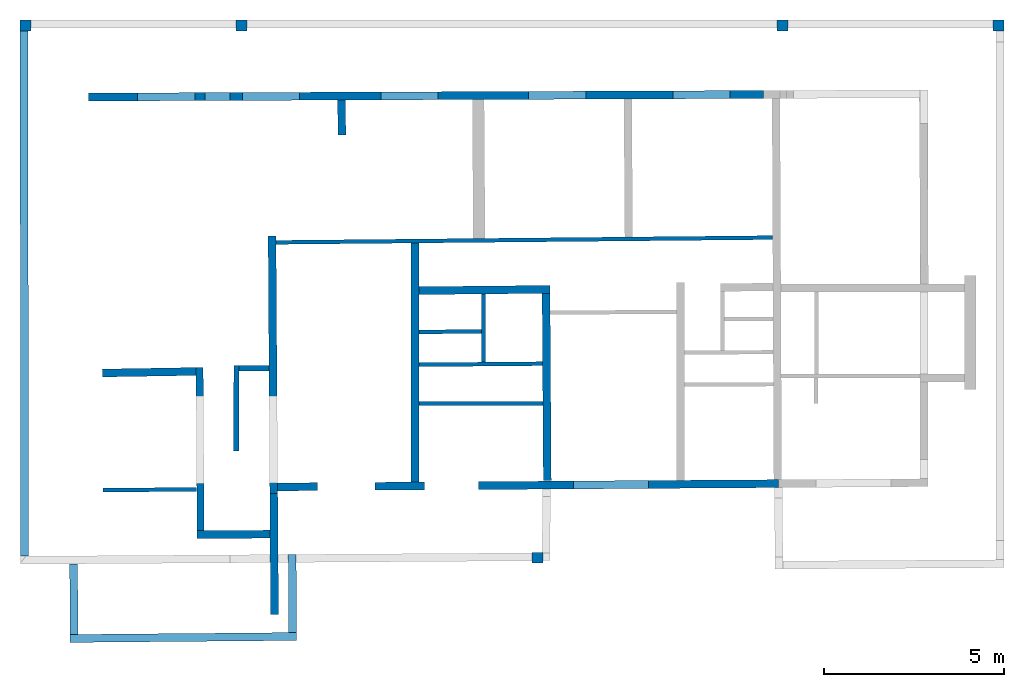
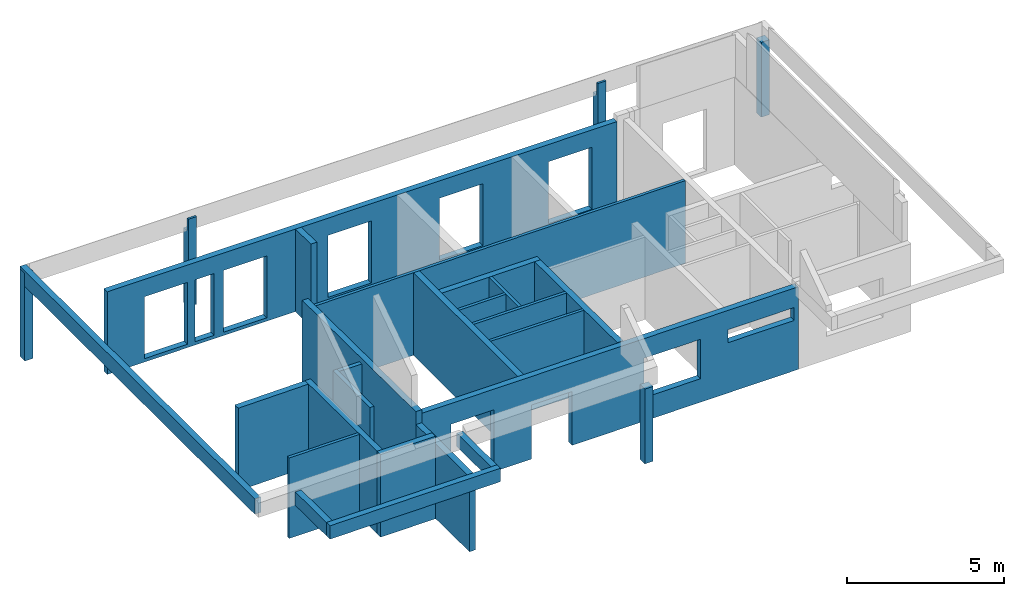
# One storey, part 1 of 3: 23 walls, 5 columns, 10 openings.
"""IFC2X3 building model written with IfcOpenShell, lengths in centimetres."""

from ifc_helpers import new_model, entity, si_unit, converted_unit, direction, frame, frame_2d, origin, origin_2d_with_axis, place, context, subcontext, project, spatial, polyline, rectangle, outline, extrude, faceted_brep, source, transform, mapped, material, layer, layer_set, layer_usage, type_object, type_shapes, element, save


model = new_model("IFC2X3")

# Units and contexts
model_context = context("Model", 3, precision=0.001, world=frame((0.0, 0.0, 13090.0)), true_north=direction((6.123233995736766e-17, 1.0)))
body_context = subcontext(model_context, "Body", "Model", "MODEL_VIEW")
ifc_project = project(units=[si_unit("LENGTHUNIT", "METRE", prefix="CENTI"), si_unit("AREAUNIT", "SQUARE_METRE"), si_unit("VOLUMEUNIT", "CUBIC_METRE"), converted_unit("PLANEANGLEUNIT", "DEGREE", entity("IfcPlaneAngleMeasure", 0.017453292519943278), si_unit("PLANEANGLEUNIT", "RADIAN"), dimensions=[0, 0, 0, 0, 0, 0, 0])], contexts=[model_context])

# Site, building, storey
site_placement = place(None, origin())
site = spatial("IfcSite", under=ifc_project, at=site_placement, Name="Default", CompositionType="ELEMENT")
building_placement = place(site_placement, origin())
building = spatial("IfcBuilding", under=site, at=building_placement, Name="e 39 logements et 22 maisons relais", CompositionType="ELEMENT")
storey_placement = place(building_placement, origin())
storey = spatial("IfcBuildingStorey", under=building, at=storey_placement, Name="RDC", CompositionType="ELEMENT", Elevation=0.0)

# Columns
ifc_material_1 = material(Name="Maçonnerie - Béton coulé sur place")
column_type_1 = type_object("IfcColumnType", Name="Poteau béton - Rectangulaire:30x30", PredefinedType="COLUMN", material=ifc_material_1)
shared_shape_1 = source(origin(), body_context, "Body", "Brep", [
    faceted_brep([(-1475.714366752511, 732.5252742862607, 0.0), (-1475.7143667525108, 702.5252742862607, 0.0), (-1505.714366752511, 702.5252742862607, 0.0), (-1505.714366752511, 732.5252742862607, 0.0), (-1475.7143667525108, 732.5252742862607, 290.0), (-1475.7143667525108, 710.5252742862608, 290.0), (-1475.7143667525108, 710.5252742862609, 340.0), (-1475.7143667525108, 702.5252742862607, 340.0), (-1483.6596933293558, 702.5252742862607, 340.0), (-1483.6596933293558, 702.5252742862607, 290.0), (-1505.6597089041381, 702.5252742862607, 290.0), (-1505.659708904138, 702.5252742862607, 340.0), (-1505.714366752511, 702.5252742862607, 340.0), (-1505.714366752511, 732.5252742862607, 340.0), (-1505.6954062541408, 732.5252742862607, 340.0), (-1505.6954062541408, 732.5252742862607, 290.0), (-1483.6953906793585, 732.5252742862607, 290.0), (-1483.6692126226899, 710.5252742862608, 340.0), (-1483.6692126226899, 710.5252742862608, 290.0)], [[[0, 1, 2, 3]], [[1, 0, 4, 5, 6, 7]], [[2, 1, 7, 8, 9, 10, 11, 12]], [[3, 2, 12, 13]], [[0, 3, 13, 14, 15, 16, 4]], [[8, 7, 6, 17]], [[10, 15, 14, 11]], [[15, 10, 9, 18, 5, 4, 16]], [[9, 8, 17, 18]], [[5, 18, 17, 6]], [[13, 12, 11, 14]]]),
])
type_shapes(column_type_1, [shared_shape_1])
column_1_placement = place(storey_placement, origin())
element("IfcColumn", 1, at=column_1_placement, inside=storey, type_object=column_type_1, material=ifc_material_1, Name="Poteau béton - Rectangulaire:30x30", ObjectType="Poteau béton - Rectangulaire:30x30", context=body_context, shape_type="MappedRepresentation", body=[
    mapped(shared_shape_1, transform((0.0, 0.0, 0.0), scale=1.0)),
])
column_type_2 = type_object("IfcColumnType", Name="Poteau béton - Rectangulaire:30x30", PredefinedType="COLUMN", material=ifc_material_1)
shared_shape_2 = source(origin(), body_context, "Body", "SweptSolid", [
    extrude(outline(polyline([(-210.0, -17.333333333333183), (80.0, -17.333333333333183), (80.0, 4.666666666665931), (130.0, 4.666666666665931), (130.0, 12.666666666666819), (-210.0, 12.666666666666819), (-210.0, -17.333333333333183)])), frame((-905.6749326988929, 715.1919409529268, 210.0), z_axis=(1.0, 0.0, 0.0), x_axis=(0.0, 0.0, 1.0)), (0.0, 0.0, 1.0), 30.0),
])
type_shapes(column_type_2, [shared_shape_2])
column_2_placement = place(storey_placement, origin())
element("IfcColumn", 2, at=column_2_placement, inside=storey, type_object=column_type_2, material=ifc_material_1, Name="Poteau béton - Rectangulaire:30x30", ObjectType="Poteau béton - Rectangulaire:30x30", context=body_context, shape_type="MappedRepresentation", body=[
    mapped(shared_shape_2, transform((0.0, 0.0, 0.0), scale=1.0)),
])
column_type_3 = type_object("IfcColumnType", Name="Poteau béton - Rectangulaire:30x30", PredefinedType="COLUMN", material=ifc_material_1)
shared_shape_3 = source(origin(), body_context, "Body", "SweptSolid", [
    extrude(outline(polyline([(-210.0, -17.333333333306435), (80.0, -17.333333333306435), (80.0, 4.666666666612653), (130.0, 4.666666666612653), (130.0, 12.666666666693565), (-210.0, 12.666666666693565), (-210.0, -17.333333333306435)])), frame((595.5111343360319, 715.1919409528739, 210.0), z_axis=(1.0, 0.0, 0.0), x_axis=(0.0, 0.0, 1.0)), (0.0, 0.0, 1.0), 30.0),
])
type_shapes(column_type_3, [shared_shape_3])
column_3_placement = place(storey_placement, origin())
element("IfcColumn", 3, at=column_3_placement, inside=storey, type_object=column_type_3, material=ifc_material_1, Name="Poteau béton - Rectangulaire:30x30", ObjectType="Poteau béton - Rectangulaire:30x30", context=body_context, shape_type="MappedRepresentation", body=[
    mapped(shared_shape_3, transform((0.0, 0.0, 0.0), scale=1.0)),
])
column_type_4 = type_object("IfcColumnType", Name="Poteau béton - Rectangulaire:30x30", PredefinedType="COLUMN", material=ifc_material_1)
shared_shape_4 = source(origin(), body_context, "Body", "SweptSolid", [
    extrude(rectangle(XDim=29.999999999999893, YDim=30.0, at=frame_2d((-1.0835776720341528e-13, 0.0), x_axis=(1.0, 0.0))), frame((1209.8343840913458, 717.5252742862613, 0.0), z_axis=(0.0, 0.0, 1.0), x_axis=(-1.0, 0.0, 0.0)), (0.0, 0.0, 1.0), 289.99999999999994),
])
type_shapes(column_type_4, [shared_shape_4])
column_4_placement = place(storey_placement, origin())
element("IfcColumn", 4, at=column_4_placement, inside=storey, type_object=column_type_4, material=ifc_material_1, Name="Poteau béton - Rectangulaire:30x30", ObjectType="Poteau béton - Rectangulaire:30x30", context=body_context, shape_type="MappedRepresentation", body=[
    mapped(shared_shape_4, transform((0.0, 0.0, 0.0), scale=1.0)),
])
column_type_5 = type_object("IfcColumnType", Name="Poteau béton - Rectangulaire:30x30", PredefinedType="COLUMN", material=ifc_material_1)
shared_shape_5 = source(origin(), body_context, "Body", "SweptSolid", [
    extrude(rectangle(XDim=29.999999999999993, YDim=29.999999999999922, at=frame_2d((-7.105427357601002e-15, 5.417888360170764e-14), x_axis=(1.0, 0.0))), frame((-69.88787504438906, -759.6761169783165, 0.0), z_axis=(0.0, 0.0, 1.0), x_axis=(-0.9999784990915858, -0.00655754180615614, 0.0)), (0.0, 0.0, 1.0), 289.9999999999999),
])
type_shapes(column_type_5, [shared_shape_5])
column_5_placement = place(storey_placement, origin())
element("IfcColumn", 5, at=column_5_placement, inside=storey, type_object=column_type_5, material=ifc_material_1, Name="Poteau béton - Rectangulaire:30x30", ObjectType="Poteau béton - Rectangulaire:30x30", context=body_context, shape_type="MappedRepresentation", body=[
    mapped(shared_shape_5, transform((0.0, 0.0, 0.0), scale=1.0)),
])

# Walls
ifc_material_2 = material(Name="Béton - Béton coulé sur place")
ifc_layer_1 = layer(ifc_material_2, 20.0)
ifc_layer_set_1 = layer_set([ifc_layer_1], Name="Mur de base:BA - 20cm")
ifc_layer_usage_1 = layer_usage(ifc_layer_set_1, "AXIS2", "POSITIVE", -10.0)
wall_type_1 = type_object("IfcWallType", Name="Mur de base:BA - 20cm", PredefinedType="STANDARD", material=ifc_layer_set_1)
wall_1_placement = place(storey_placement, frame((-1004.4320356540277, -684.527437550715, 0.0), z_axis=(0.0, 0.0, 1.0), x_axis=(-0.006557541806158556, 0.9999784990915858, 0.0)))
element("IfcWallStandardCase", 6, at=wall_1_placement, inside=storey, type_object=wall_type_1, material=ifc_layer_usage_1, Name="Mur de base:BA - 20cm", ObjectType="Mur de base:BA - 20cm", context=body_context, shape_type="SweptSolid", body=[
    extrude(outline(polyline([(453.05795774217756, -10.0), (452.85270484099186, 10.0), (430.8515463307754, 10.0), (0.0, 10.0), (0.0, -10.0), (453.05795774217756, -10.0)])), origin(), (0.0, 0.0, 1.0), 319.99999999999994),
])
ifc_layer_2 = layer(ifc_material_2, 22.0)
ifc_layer_set_2 = layer_set([ifc_layer_2], Name="Mur de base:BA - 22cm")
ifc_layer_usage_2 = layer_usage(ifc_layer_set_2, "AXIS2", "POSITIVE", -11.0)
wall_type_2 = type_object("IfcWallType", Name="Mur de base:BA - 22cm", PredefinedType="STANDARD", material=ifc_layer_set_2)
wall_2_placement = place(storey_placement, frame((-799.3341503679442, -917.7798525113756, 0.0), z_axis=(0.0, 0.0, 1.0), x_axis=(-0.006557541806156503, 0.9999784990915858, 0.0)))
element("IfcWallStandardCase", 7, at=wall_2_placement, inside=storey, type_object=wall_type_2, material=ifc_layer_usage_2, Name="Mur de base:BA - 22cm", ObjectType="Mur de base:BA - 22cm", context=body_context, shape_type="SweptSolid", body=[
    extrude(outline(polyline([(336.5, -11.0), (336.5000000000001, 11.0), (234.59233777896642, 11.0), (212.5923377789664, 11.0), (0.0, 11.0), (0.04947758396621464, -11.0), (336.5, -11.0)])), origin(), (0.0, 0.0, 1.0), 289.99999999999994),
])
ifc_layer_usage_3 = layer_usage(ifc_layer_set_2, "AXIS2", "POSITIVE", -11.0)
wall_3_placement = place(storey_placement, frame((-811.8001299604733, -694.2644551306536, 0.0), z_axis=(0.0, 0.0, 1.0), x_axis=(-0.9999784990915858, -0.006557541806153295, 0.0)))
element("IfcWallStandardCase", 8, at=wall_3_placement, inside=storey, type_object=wall_type_2, material=ifc_layer_usage_3, Name="Mur de base:BA - 22cm", ObjectType="Mur de base:BA - 22cm", context=body_context, shape_type="SweptSolid", body=[
    extrude(rectangle(XDim=202.56391303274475, YDim=22.00000000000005, at=frame_2d((101.28195651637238, 2.930988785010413e-14), x_axis=(-1.0, 0.0))), origin(), (0.0, 0.0, 1.0), 319.99999999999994),
])
ifc_layer_usage_4 = layer_usage(ifc_layer_set_2, "AXIS2", "POSITIVE", -11.0)
wall_4_placement = place(storey_placement, frame((-1017.216411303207, -242.74848891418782, 0.0), z_axis=(0.0, 0.0, 1.0), x_axis=(-0.9998585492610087, -0.016819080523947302, 0.0)))
element("IfcWallStandardCase", 9, at=wall_4_placement, inside=storey, type_object=wall_type_2, material=ifc_layer_usage_4, Name="Mur de base:BA - 22cm", ObjectType="Mur de base:BA - 22cm", context=body_context, shape_type="SweptSolid", body=[
    extrude(outline(polyline([(260.11380645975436, -11.0), (260.3395846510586, 11.0), (0.22577819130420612, 11.0), (0.0, -11.0), (260.11380645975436, -11.0)])), origin(), (0.0, 0.0, 1.0), 319.99999999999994),
])
ifc_layer_usage_5 = layer_usage(ifc_layer_set_2, "AXIS2", "POSITIVE", -11.0)
wall_5_placement = place(storey_placement, frame((-613.2346722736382, 510.3963352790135, 0.0), z_axis=(0.0, 0.0, 1.0), x_axis=(0.006557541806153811, -0.9999784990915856, 0.0)))
element("IfcWallStandardCase", 10, at=wall_5_placement, inside=storey, type_object=wall_type_2, material=ifc_layer_usage_5, Name="Mur de base:BA - 22cm", ObjectType="Mur de base:BA - 22cm", context=body_context, shape_type="SweptSolid", body=[
    extrude(outline(polyline([(97.00963727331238, -11.0), (97.00963727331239, 11.0), (0.060559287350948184, 11.0), (0.0, -11.0), (97.00963727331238, -11.0)])), origin(), (0.0, 0.0, 1.0), 319.99999999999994),
])

# Wall, openings
ifc_layer_usage_6 = layer_usage(ifc_layer_set_2, "AXIS2", "POSITIVE", -11.0)
wall_6_placement = place(storey_placement, frame((-790.6593943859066, -563.1606061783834, 0.0), z_axis=(0.0, 0.0, 1.0), x_axis=(0.9999784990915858, 0.006557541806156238, 0.0)))
wall_6 = element("IfcWallStandardCase", 11, at=wall_6_placement, inside=storey, type_object=wall_type_2, material=ifc_layer_usage_6, Name="Mur de base:BA - 22cm", ObjectType="Mur de base:BA - 22cm", context=body_context, shape_type="SweptSolid", body=[
    extrude(rectangle(XDim=1389.5071248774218, YDim=22.000000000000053, at=frame_2d((694.7535624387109, 1.9539925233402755e-14), x_axis=(1.0, 0.0))), origin(), (0.0, 0.0, 1.0), 319.99999999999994),
])
opening_1_placement = place(wall_6_placement, frame((794.335343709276, 557.9637156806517, 0.0), z_axis=(0.0, 0.0, 1.0), x_axis=(0.9999784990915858, -0.006557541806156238, 0.0)))
element("IfcOpeningElement", 12, at=opening_1_placement, cuts=wall_6, Name="Mur de base:BA - 22cm", ObjectType="Opening", context=body_context, shape_type="SweptSolid", body=[
    extrude(rectangle(XDim=239.99999999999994, YDim=159.0, at=origin_2d_with_axis()), frame((-599.7362431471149, -703.3116330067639, 120.0), z_axis=(-0.006557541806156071, 0.9999784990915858, 0.0), x_axis=(0.0, 0.0, -1.0)), (0.0, 0.0, 1.0), 304.80000000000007),
])
opening_2_placement = place(wall_6_placement, frame((794.335343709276, 557.9637156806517, 0.0), z_axis=(0.0, 0.0, 1.0), x_axis=(0.9999784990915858, -0.006557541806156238, 0.0)))
element("IfcOpeningElement", 13, at=opening_2_placement, cuts=wall_6, Name="Mur de base:BA - 22cm", ObjectType="Opening", context=body_context, shape_type="SweptSolid", body=[
    extrude(rectangle(XDim=209.00000000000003, YDim=149.99999999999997, at=frame_2d((0.0, 1.4210854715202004e-14), x_axis=(1.0, 0.0))), frame((-307.54252571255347, -701.395519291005, 104.50000000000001), z_axis=(-0.0065575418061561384, 0.9999784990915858, 0.0), x_axis=(0.0, 0.0, -1.0)), (0.0, 0.0, 1.0), 304.80000000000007),
])
opening_3_placement = place(wall_6_placement, frame((794.335343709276, 557.9637156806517, 0.0), z_axis=(0.0, 0.0, 1.0), x_axis=(0.9999784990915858, -0.006557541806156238, 0.0)))
element("IfcOpeningElement", 14, at=opening_3_placement, cuts=wall_6, Name="Mur de base:BA - 22cm", ObjectType="Opening", context=body_context, shape_type="SweptSolid", body=[
    extrude(rectangle(XDim=153.00000000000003, YDim=207.99999999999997, at=frame_2d((0.0, 1.4210854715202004e-14), x_axis=(1.0, 0.0))), frame((135.54794723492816, -698.4898725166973, 167.5), z_axis=(-0.006557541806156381, 0.9999784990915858, 0.0), x_axis=(0.0, 0.0, -1.0)), (0.0, 0.0, 1.0), 304.8),
])
opening_4_placement = place(wall_6_placement, frame((794.335343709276, 557.9637156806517, 0.0), z_axis=(0.0, 0.0, 1.0), x_axis=(0.9999784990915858, -0.006557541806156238, 0.0)))
element("IfcOpeningElement", 15, at=opening_4_placement, cuts=wall_6, Name="Mur de base:BA - 22cm", ObjectType="Opening", context=body_context, shape_type="SweptSolid", body=[
    extrude(rectangle(XDim=50.0, YDim=243.0, at=origin_2d_with_axis()), frame((463.2480261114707, -696.3409193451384, 220.0), z_axis=(-0.006557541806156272, 0.9999784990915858, 0.0), x_axis=(0.0, 0.0, -1.0)), (0.0, 0.0, 1.0), 304.79999999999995),
])

# Walls
ifc_layer_usage_7 = layer_usage(ifc_layer_set_2, "AXIS2", "NEGATIVE", 11.0)
wall_7_placement = place(storey_placement, frame((-409.47312273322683, -549.7328055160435, 0.0), z_axis=(0.0, 0.0, 1.0), x_axis=(0.0, 1.0, 0.0)))
element("IfcWallStandardCase", 16, at=wall_7_placement, inside=storey, type_object=wall_type_2, material=ifc_layer_usage_7, Name="Mur de base:BA - 22cm", ObjectType="Mur de base:BA - 22cm", context=body_context, shape_type="SweptSolid", body=[
    extrude(outline(polyline([(663.4829443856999, -11.0), (663.2698835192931, 11.0), (0.0, 11.0), (0.14426902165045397, -11.0), (212.09997306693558, -11.0), (223.09997400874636, -11.0), (320.15418495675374, -11.0), (331.1545832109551, -11.0), (410.80592302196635, -11.0), (421.80677643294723, -11.0), (520.2744017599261, -11.0), (542.2753925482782, -11.0), (663.4829443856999, -11.0)])), origin(), (0.0, 0.0, 1.0), 319.99999999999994),
])
ifc_layer_usage_8 = layer_usage(ifc_layer_set_2, "AXIS2", "POSITIVE", -11.0)
wall_8_placement = place(storey_placement, frame((-398.5775159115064, -18.45889912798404, 0.0), z_axis=(0.0, 0.0, 1.0), x_axis=(0.9999549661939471, 0.009490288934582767, 0.0)))
element("IfcWallStandardCase", 17, at=wall_8_placement, inside=storey, type_object=wall_type_2, material=ifc_layer_usage_8, Name="Mur de base:BA - 22cm", ObjectType="Mur de base:BA - 22cm", context=body_context, shape_type="SweptSolid", body=[
    extrude(outline(polyline([(363.60406285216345, -11.0), (363.6685855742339, 11.0), (0.20879575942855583, 11.0), (0.0, -11.0), (173.19985839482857, -11.0), (184.20035378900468, -11.0), (341.60396823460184, -11.0), (363.60406285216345, -11.0)])), origin(), (0.0, 0.0, 1.0), 320.0),
])
ifc_layer_usage_9 = layer_usage(ifc_layer_set_2, "AXIS2", "POSITIVE", -11.0)
wall_9_placement = place(storey_placement, frame((-45.885197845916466, -26.079829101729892, 0.0), z_axis=(0.0, 0.0, 1.0), x_axis=(0.006557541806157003, -0.9999784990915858, 0.0)))
element("IfcWallStandardCase", 18, at=wall_9_placement, inside=storey, type_object=wall_type_2, material=ifc_layer_usage_9, Name="Mur de base:BA - 22cm", ObjectType="Mur de base:BA - 22cm", context=body_context, shape_type="SweptSolid", body=[
    extrude(outline(polyline([(519.1853414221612, -11.0), (519.1853414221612, 11.0), (59.079608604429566, 11.0), (48.0796086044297, 11.0), (0.0, 11.0), (0.064522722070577, -11.0), (189.5130239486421, -11.0), (200.51304489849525, -11.0), (300.3451596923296, -11.0), (311.34536729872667, -11.0), (519.1853414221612, -11.0)])), origin(), (0.0, 0.0, 1.0), 319.99999999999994),
])
ifc_layer_usage_10 = layer_usage(ifc_layer_set_2, "AXIS2", "POSITIVE", -11.0)
wall_10_placement = place(storey_placement, frame((-1494.6954140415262, 732.538363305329, 290.0), z_axis=(0.0, 0.0, 1.0), x_axis=(0.0011899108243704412, -0.9999992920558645, 0.0)))
element("IfcWallStandardCase", 19, at=wall_10_placement, inside=storey, type_object=wall_type_2, material=ifc_layer_usage_10, Name="Mur de base:BA - 22cm", ObjectType="Mur de base:BA - 22cm", context=body_context, shape_type="SweptSolid", body=[
    extrude(outline(polyline([(1488.0673900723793, -11.0), (1487.9493000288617, 11.0), (30.02619929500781, 11.0), (22.0261936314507, 11.0), (0.02617805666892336, 11.0), (0.0, -11.0), (30.000021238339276, -11.0), (1488.0673900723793, -11.0)])), origin(), (0.0, 0.0, 1.0), 59.48518537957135),
])
ifc_layer_usage_11 = layer_usage(ifc_layer_set_2, "AXIS2", "POSITIVE", -11.0)
wall_11_placement = place(storey_placement, frame((-737.9118028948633, -978.2167348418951, 290.0), z_axis=(0.0, 0.0, 1.0), x_axis=(-0.9999612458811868, -0.008803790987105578, 0.0)))
element("IfcWallStandardCase", 20, at=wall_11_placement, inside=storey, type_object=wall_type_2, material=ifc_layer_usage_11, Name="Mur de base:BA - 22cm", ObjectType="Mur de base:BA - 22cm", context=body_context, shape_type="SweptSolid", body=[
    extrude(outline(polyline([(628.6656088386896, -11.0), (628.7150278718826, 11.0), (0.04941903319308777, 11.0), (0.0, -11.0), (22.000055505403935, -11.0), (606.6655533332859, -11.0), (628.6656088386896, -11.0)])), origin(), (0.0, 0.0, 1.0), 51.99999999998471),
])
ifc_layer_usage_12 = layer_usage(ifc_layer_set_2, "AXIS2", "POSITIVE", -11.0)
wall_12_placement = place(storey_placement, frame((-1356.9361015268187, -776.5776304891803, 290.0), z_axis=(0.0, 0.0, 1.0), x_axis=(0.006557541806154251, -0.9999784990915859, 0.0)))
element("IfcWallStandardCase", 21, at=wall_12_placement, inside=storey, type_object=wall_type_2, material=ifc_layer_usage_12, Name="Mur de base:BA - 22cm", ObjectType="Mur de base:BA - 22cm", context=body_context, shape_type="SweptSolid", body=[
    extrude(outline(polyline([(196.10625477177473, -11.0), (196.0568357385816, 11.0), (0.0, 11.0), (0.0, -11.0), (196.10625477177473, -11.0)])), origin(), (0.0, 0.0, 1.0), 51.99999999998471),
])
ifc_layer_usage_13 = layer_usage(ifc_layer_set_2, "AXIS2", "POSITIVE", -11.0)
wall_13_placement = place(storey_placement, frame((-750.429388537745, -750.5998788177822, 290.0), z_axis=(0.0, 0.0, 1.0), x_axis=(0.0065575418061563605, -0.9999784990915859, 0.0)))
element("IfcWallStandardCase", 22, at=wall_13_placement, inside=storey, type_object=wall_type_2, material=ifc_layer_usage_13, Name="Mur de base:BA - 22cm", ObjectType="Mur de base:BA - 22cm", context=body_context, shape_type="SweptSolid", body=[
    extrude(outline(polyline([(216.7434934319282, -11.0), (216.69407439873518, 11.0), (22.0, 11.0), (0.0, 11.0), (0.0, -11.0), (22.0, -11.0), (216.7434934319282, -11.0)])), origin(), (0.0, 0.0, 1.0), 51.99999999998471),
])
ifc_layer_usage_14 = layer_usage(ifc_layer_set_2, "AXIS2", "POSITIVE", -11.0)
wall_14_placement = place(storey_placement, frame((-801.5407631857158, -581.287087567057, 0.0), z_axis=(0.0, 0.0, 1.0), x_axis=(-0.006557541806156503, 0.9999784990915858, 0.0)))
element("IfcWallStandardCase", 23, at=wall_14_placement, inside=storey, type_object=wall_type_2, material=ifc_layer_usage_14, Name="Mur de base:BA - 22cm", ObjectType="Mur de base:BA - 22cm", context=body_context, shape_type="SweptSolid", body=[
    extrude(rectangle(XDim=714.3077185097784, YDim=22.000000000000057, at=frame_2d((357.1538592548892, -7.105427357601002e-15), x_axis=(-1.0, 0.0))), origin(), (0.0, 0.0, 1.0), 339.99999999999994),
])

# Wall, openings
ifc_layer_usage_15 = layer_usage(ifc_layer_set_2, "AXIS2", "NEGATIVE", 11.0)
wall_15_placement = place(storey_placement, frame((-1315.4290091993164, 518.6943424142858, 0.0), z_axis=(0.0, 0.0, 1.0), x_axis=(0.9999927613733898, 0.003804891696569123, 0.0)))
wall_15 = element("IfcWallStandardCase", 24, at=wall_15_placement, inside=storey, type_object=wall_type_2, material=ifc_layer_usage_15, Name="Mur de base:BA - 22cm", ObjectType="Mur de base:BA - 22cm", context=body_context, shape_type="SweptSolid", body=[
    extrude(rectangle(XDim=1873.1332859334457, YDim=21.999999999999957, at=frame_2d((936.5666429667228, -1.9539925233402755e-14), x_axis=(-1.0, 0.0))), origin(), (0.0, 0.0, 1.0), 320.0),
])
opening_5_placement = place(wall_15_placement, frame((1313.4459115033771, -523.6956526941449, 0.0), z_axis=(0.0, 0.0, 1.0), x_axis=(0.9999927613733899, -0.0038048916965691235, 0.0)))
element("IfcOpeningElement", 25, at=opening_5_placement, cuts=wall_15, Name="Mur de base:BA - 22cm", ObjectType="Opening", context=body_context, shape_type="SweptSolid", body=[
    extrude(rectangle(XDim=239.99999999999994, YDim=69.99999999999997, at=frame_2d((-1.4210854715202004e-14, 1.1013412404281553e-13), x_axis=(1.0, 0.0))), frame((-957.1883616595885, 378.65639559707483, 133.0), z_axis=(-0.003804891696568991, 0.9999927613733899, 0.0), x_axis=(0.0, 0.0, -1.0)), (0.0, 0.0, 1.0), 304.79999999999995),
])
opening_6_placement = place(wall_15_placement, frame((1313.4459115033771, -523.6956526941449, 0.0), z_axis=(0.0, 0.0, 1.0), x_axis=(0.9999927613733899, -0.0038048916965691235, 0.0)))
element("IfcOpeningElement", 26, at=opening_6_placement, cuts=wall_15, Name="Mur de base:BA - 22cm", ObjectType="Opening", context=body_context, shape_type="SweptSolid", body=[
    extrude(rectangle(XDim=239.99999999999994, YDim=158.9999999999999, at=frame_2d((-1.4210854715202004e-14, 0.0), x_axis=(1.0, 0.0))), frame((-1099.2873330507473, 378.1157204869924, 133.0), z_axis=(-0.0038048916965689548, 0.9999927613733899, 0.0), x_axis=(0.0, 0.0, -1.0)), (0.0, 0.0, 1.0), 304.79999999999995),
])
opening_7_placement = place(wall_15_placement, frame((1313.4459115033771, -523.6956526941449, 0.0), z_axis=(0.0, 0.0, 1.0), x_axis=(0.9999927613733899, -0.0038048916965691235, 0.0)))
element("IfcOpeningElement", 27, at=opening_7_placement, cuts=wall_15, Name="Mur de base:BA - 22cm", ObjectType="Opening", context=body_context, shape_type="SweptSolid", body=[
    extrude(rectangle(XDim=239.99999999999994, YDim=159.0, at=frame_2d((-1.4210854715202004e-14, 1.0658141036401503e-13), x_axis=(1.0, 0.0))), frame((-808.4894380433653, 379.2221829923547, 133.0), z_axis=(-0.0038048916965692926, 0.9999927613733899, 0.0), x_axis=(0.0, 0.0, -1.0)), (0.0, 0.0, 1.0), 304.7999999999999),
])
opening_8_placement = place(wall_15_placement, frame((1313.4459115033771, -523.6956526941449, 0.0), z_axis=(0.0, 0.0, 1.0), x_axis=(0.9999927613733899, -0.0038048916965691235, 0.0)))
element("IfcOpeningElement", 28, at=opening_8_placement, cuts=wall_15, Name="Mur de base:BA - 22cm", ObjectType="Opening", context=body_context, shape_type="SweptSolid", body=[
    extrude(rectangle(XDim=239.99999999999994, YDim=159.0, at=frame_2d((-1.4210854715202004e-14, 0.0), x_axis=(1.0, 0.0))), frame((-424.1922198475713, 380.68440287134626, 133.0), z_axis=(-0.0038048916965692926, 0.9999927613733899, 0.0), x_axis=(0.0, 0.0, -1.0)), (0.0, 0.0, 1.0), 304.79999999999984),
])
opening_9_placement = place(wall_15_placement, frame((1313.4459115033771, -523.6956526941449, 0.0), z_axis=(0.0, 0.0, 1.0), x_axis=(0.9999927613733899, -0.0038048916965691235, 0.0)))
element("IfcOpeningElement", 29, at=opening_9_placement, cuts=wall_15, Name="Mur de base:BA - 22cm", ObjectType="Opening", context=body_context, shape_type="SweptSolid", body=[
    extrude(rectangle(XDim=239.99999999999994, YDim=158.99999999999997, at=frame_2d((-1.4210854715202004e-14, 0.0), x_axis=(1.0, 0.0))), frame((-13.995189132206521, 382.2451694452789, 133.0), z_axis=(-0.003804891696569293, 0.9999927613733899, 0.0), x_axis=(0.0, 0.0, -1.0)), (0.0, 0.0, 1.0), 304.7999999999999),
])
opening_10_placement = place(wall_15_placement, frame((1313.4459115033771, -523.6956526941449, 0.0), z_axis=(0.0, 0.0, 1.0), x_axis=(0.9999927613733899, -0.0038048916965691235, 0.0)))
element("IfcOpeningElement", 30, at=opening_10_placement, cuts=wall_15, Name="Mur de base:BA - 22cm", ObjectType="Opening", context=body_context, shape_type="SweptSolid", body=[
    extrude(rectangle(XDim=239.99999999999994, YDim=159.0, at=frame_2d((-1.4210854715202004e-14, 4.973799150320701e-14), x_axis=(1.0, 0.0))), frame((385.90191614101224, 383.76674563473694, 133.0), z_axis=(-0.0038048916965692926, 0.9999927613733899, 0.0), x_axis=(0.0, 0.0, -1.0)), (0.0, 0.0, 1.0), 304.80000000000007),
])

# Walls
ifc_layer_3 = layer(ifc_material_2, 11.0)
ifc_layer_set_3 = layer_set([ifc_layer_3], Name="Mur de base:cloison 11cm")
ifc_layer_usage_16 = layer_usage(ifc_layer_set_3, "AXIS2", "POSITIVE", -5.5)
wall_type_3 = type_object("IfcWallType", Name="Mur de base:cloison 11cm", PredefinedType="STANDARD", material=ifc_layer_set_3)
wall_16_placement = place(storey_placement, frame((582.938089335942, 128.75495693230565, 0.0), z_axis=(0.0, 0.0, 1.0), x_axis=(-0.9999531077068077, -0.009684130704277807, 0.0)))
element("IfcWallStandardCase", 31, at=wall_16_placement, inside=storey, type_object=wall_type_3, material=ifc_layer_usage_16, Name="Mur de base:cloison 11cm", ObjectType="Mur de base:cloison 11cm", context=body_context, shape_type="SweptSolid", body=[
    extrude(outline(polyline([(1378.0947548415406, -5.499999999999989), (1378.129148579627, 5.499999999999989), (1003.5115317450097, 5.5), (981.5105000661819, 5.4999999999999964), (0.05623776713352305, 5.4999999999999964), (0.0, -5.499999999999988), (388.4057535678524, -5.499999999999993), (410.4058611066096, -5.499999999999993), (798.0454442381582, -5.499999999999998), (831.0456055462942, -5.4999999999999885), (1378.0947548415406, -5.499999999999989)])), origin(), (0.0, 0.0, 1.0), 319.99999999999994),
])
ifc_layer_usage_17 = layer_usage(ifc_layer_set_3, "AXIS2", "NEGATIVE", 5.5)
wall_17_placement = place(storey_placement, frame((-1275.276602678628, -571.8885953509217, 7.706632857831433), z_axis=(0.0, 0.0, 1.0), x_axis=(0.9999784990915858, 0.0065575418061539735, 0.0)))
element("IfcWallStandardCase", 32, at=wall_17_placement, inside=storey, type_object=wall_type_3, material=ifc_layer_usage_17, Name="Mur de base:cloison 11cm", ObjectType="Mur de base:cloison 11cm", context=body_context, shape_type="SweptSolid", body=[
    extrude(rectangle(XDim=259.10010970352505, YDim=10.999999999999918, at=frame_2d((129.55005485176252, -4.440892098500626e-15), x_axis=(-1.0, 0.0))), origin(), (0.0, 0.0, 1.0), 312.2933671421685),
])
ifc_layer_usage_18 = layer_usage(ifc_layer_set_3, "AXIS2", "NEGATIVE", 5.5)
wall_18_placement = place(storey_placement, frame((-398.4753986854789, -332.13283292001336, 0.0), z_axis=(0.0, 0.0, 1.0), x_axis=(0.999999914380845, 0.00041380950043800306, 0.0)))
element("IfcWallStandardCase", 33, at=wall_18_placement, inside=storey, type_object=wall_type_3, material=ifc_layer_usage_18, Name="Mur de base:cloison 11cm", ObjectType="Mur de base:cloison 11cm", context=body_context, shape_type="SweptSolid", body=[
    extrude(outline(polyline([(343.6298510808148, -5.500000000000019), (343.5622686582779, 5.4999999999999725), (0.004551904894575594, 5.500000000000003), (0.0, -5.500000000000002), (343.6298510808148, -5.500000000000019)])), origin(), (0.0, 0.0, 1.0), 319.99999999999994),
])
ifc_layer_usage_19 = layer_usage(ifc_layer_set_3, "AXIS2", "NEGATIVE", 5.5)
wall_19_placement = place(storey_placement, frame((-398.51992315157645, -224.07881967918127, 0.0), z_axis=(0.0, 0.0, 1.0), x_axis=(0.999963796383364, 0.00850916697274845, 0.0)))
element("IfcWallStandardCase", 34, at=wall_19_placement, inside=storey, type_object=wall_type_3, material=ifc_layer_usage_19, Name="Mur de base:cloison 11cm", ObjectType="Mur de base:cloison 11cm", context=body_context, shape_type="SweptSolid", body=[
    extrude(outline(polyline([(342.91544885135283, -5.499999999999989), (342.9369173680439, 5.500000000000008), (184.2923314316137, 5.499999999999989), (173.29193317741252, 5.500000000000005), (0.09360422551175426, 5.500000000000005), (0.0, -5.500000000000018), (342.91544885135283, -5.499999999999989)])), origin(), (0.0, 0.0, 1.0), 319.99999999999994),
])
ifc_layer_usage_20 = layer_usage(ifc_layer_set_3, "AXIS2", "NEGATIVE", 5.5)
wall_20_placement = place(storey_placement, frame((-398.54162977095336, -133.4273091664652, 0.0), z_axis=(0.0, 0.0, 1.0), x_axis=(0.9999224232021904, 0.012455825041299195, 0.0)))
element("IfcWallStandardCase", 35, at=wall_20_placement, inside=storey, type_object=wall_type_3, material=ifc_layer_usage_20, Name="Mur de base:cloison 11cm", ObjectType="Mur de base:cloison 11cm", context=body_context, shape_type="SweptSolid", body=[
    extrude(outline(polyline([(173.20549527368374, -5.499999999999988), (173.3425199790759, 5.500000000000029), (0.13702470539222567, 5.50000000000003), (0.0, -5.499999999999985), (173.20549527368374, -5.499999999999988)])), origin(), (0.0, 0.0, 1.0), 319.99999999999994),
])
ifc_layer_usage_21 = layer_usage(ifc_layer_set_3, "AXIS2", "NEGATIVE", 5.5)
wall_21_placement = place(storey_placement, frame((-219.78106418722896, -217.10444880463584, 0.0), z_axis=(0.0, 0.0, 1.0), x_axis=(0.0, 1.0, 0.0)))
element("IfcWallStandardCase", 36, at=wall_21_placement, inside=storey, type_object=wall_type_3, material=ifc_layer_usage_21, Name="Mur de base:cloison 11cm", ObjectType="Mur de base:cloison 11cm", context=body_context, shape_type="SweptSolid", body=[
    extrude(outline(polyline([(189.3941596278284, -5.499999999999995), (189.2897617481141, 5.499999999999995), (91.33583706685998, 5.5000000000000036), (80.33498365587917, 5.499999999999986), (0.0, 5.499999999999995), (0.0936042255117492, -5.499999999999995), (189.3941596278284, -5.499999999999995)])), origin(), (0.0, 0.0, 1.0), 319.99999999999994),
])
ifc_layer_4 = layer(ifc_material_2, 15.0)
ifc_layer_set_4 = layer_set([ifc_layer_4], Name="Mur de base:BA - 15cm")
ifc_layer_usage_22 = layer_usage(ifc_layer_set_4, "AXIS2", "NEGATIVE", 7.5)
wall_type_4 = type_object("IfcWallType", Name="Mur de base:BA - 15cm", PredefinedType="STANDARD", material=ifc_layer_set_4)
wall_22_placement = place(storey_placement, frame((-906.1556246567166, -463.6393242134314, 0.0), z_axis=(0.0, 0.0, 1.0), x_axis=(0.00565354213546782, 0.9999840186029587, 0.0)))
element("IfcWallStandardCase", 37, at=wall_22_placement, inside=storey, type_object=wall_type_4, material=ifc_layer_usage_22, Name="Mur de base:BA - 15cm", ObjectType="Mur de base:BA - 15cm", context=body_context, shape_type="SweptSolid", body=[
    extrude(outline(polyline([(236.95235356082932, -7.499999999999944), (236.8675490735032, 7.500000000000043), (0.0, 7.500000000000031), (0.0, -7.499999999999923), (221.9521138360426, -7.499999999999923), (236.95235356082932, -7.499999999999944)])), origin(), (0.0, 0.0, 1.0), 319.99999999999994),
])
ifc_layer_usage_23 = layer_usage(ifc_layer_set_4, "AXIS2", "NEGATIVE", 7.5)
wall_23_placement = place(storey_placement, frame((-897.4009288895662, -234.23315904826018, 0.0)))
element("IfcWallStandardCase", 38, at=wall_23_placement, inside=storey, type_object=wall_type_4, material=ifc_layer_usage_23, Name="Mur de base:BA - 15cm", ObjectType="Mur de base:BA - 15cm", context=body_context, shape_type="SweptSolid", body=[
    extrude(outline(polyline([(82.63324223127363, -7.50000000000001), (82.53487698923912, 7.499999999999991), (0.0848044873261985, 7.5), (0.0, -7.5), (82.63324223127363, -7.50000000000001)])), origin(), (0.0, 0.0, 1.0), 319.99999999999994),
])

save(model, "model.ifc")
